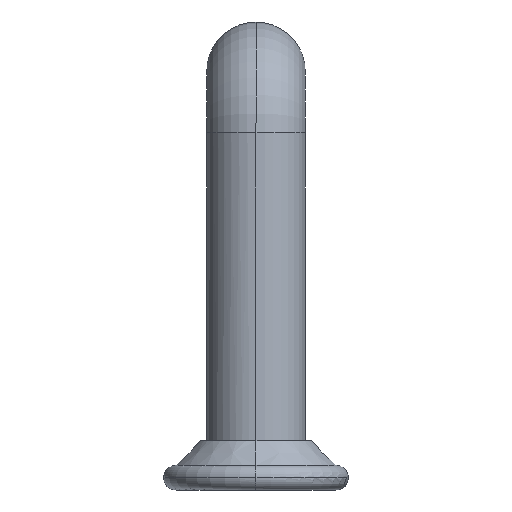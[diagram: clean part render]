
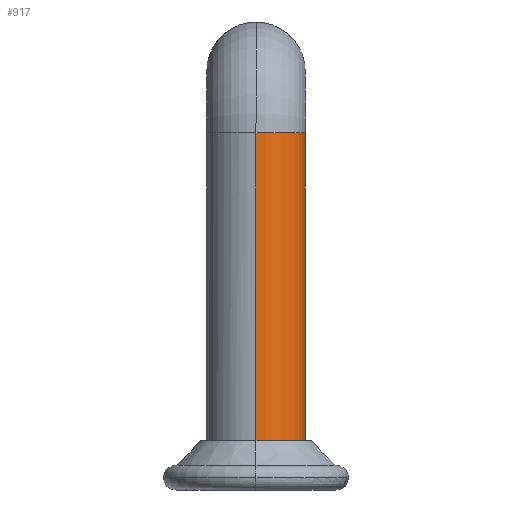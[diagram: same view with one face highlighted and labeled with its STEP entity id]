
A CAD part, left-side view. The second image highlights one B-rep face of the part: STEP entity #917.
In plain terms, the highlighted cylindrical face has radius 4 mm (diameter 8 mm), a partial arc.
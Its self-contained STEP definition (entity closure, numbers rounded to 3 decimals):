
#246=CARTESIAN_POINT('',(-57.5,0.,10.));
#247=VERTEX_POINT('',#246);
#257=CARTESIAN_POINT('',(-49.5,0.,10.));
#258=VERTEX_POINT('',#257);
#259=CARTESIAN_POINT('',(-53.5,0.,10.));
#260=DIRECTION('',(0.0,0.0,1.0));
#261=DIRECTION('',(-1.0,0.0,0.0));
#262=AXIS2_PLACEMENT_3D('',#259,#260,#261);
#263=CIRCLE('',#262,4.0);
#264=EDGE_CURVE('',#247,#258,#263,.T.);
#537=CARTESIAN_POINT('',(-49.5,0.,-15.));
#538=VERTEX_POINT('',#537);
#548=CARTESIAN_POINT('',(-57.5,0.,-15.));
#549=VERTEX_POINT('',#548);
#550=CARTESIAN_POINT('',(-53.5,0.,-15.));
#551=DIRECTION('',(0.0,0.0,-1.0));
#552=DIRECTION('',(-1.0,0.0,0.0));
#553=AXIS2_PLACEMENT_3D('',#550,#551,#552);
#554=CIRCLE('',#553,4.0);
#555=EDGE_CURVE('',#538,#549,#554,.T.);
#896=CARTESIAN_POINT('',(-53.5,0.,-2.5));
#897=DIRECTION('',(0.0,0.,1.0));
#898=DIRECTION('',(-1.0,0.0,0.0));
#899=AXIS2_PLACEMENT_3D('',#896,#897,#898);
#900=CYLINDRICAL_SURFACE('',#899,4.0);
#901=CARTESIAN_POINT('',(-57.5,0.,-15.));
#902=DIRECTION('',(0.0,0.0,1.0));
#903=VECTOR('',#902,25.0);
#904=LINE('',#901,#903);
#905=EDGE_CURVE('',#549,#247,#904,.T.);
#906=ORIENTED_EDGE('',*,*,#905,.F.);
#907=ORIENTED_EDGE('',*,*,#555,.F.);
#908=CARTESIAN_POINT('',(-49.5,0.,10.));
#909=DIRECTION('',(0.0,0.0,-1.0));
#910=VECTOR('',#909,25.0);
#911=LINE('',#908,#910);
#912=EDGE_CURVE('',#258,#538,#911,.T.);
#913=ORIENTED_EDGE('',*,*,#912,.F.);
#914=ORIENTED_EDGE('',*,*,#264,.F.);
#915=EDGE_LOOP('',(#906,#907,#913,#914));
#916=FACE_OUTER_BOUND('',#915,.T.);
#917=ADVANCED_FACE('',(#916),#900,.T.);
